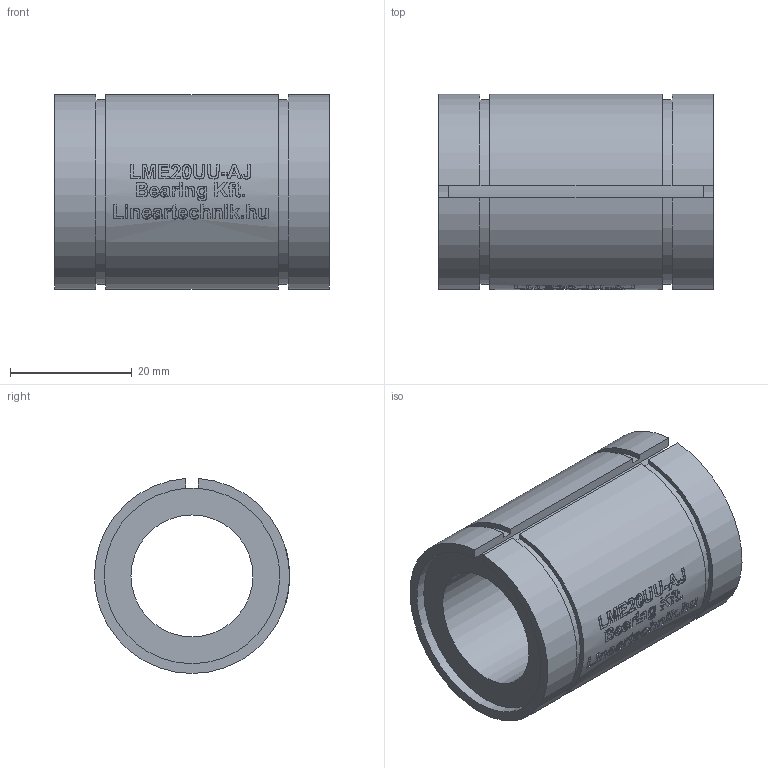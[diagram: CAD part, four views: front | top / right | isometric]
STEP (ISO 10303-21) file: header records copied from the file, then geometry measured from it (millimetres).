
FILE_DESCRIPTION(/* description */ (''),/* implementation_level */ '2;1');
FILE_NAME(/* name */ 'LME20UU-AJ',/* time_stamp */ '2019-07-02T12:05:51+02:00',/* author */ ('VĂ©gh MĂˇtĂ©'),/* organization */ ('Bearing Kft'),/* preprocessor_version */ 'ST-DEVELOPER v16.7',/* originating_system */ 'DEX',/* authorisation */ $);
FILE_SCHEMA (('AUTOMOTIVE_DESIGN {1 0 10303 214 3 1 1}'));
Length unit declared in the file: millimetre
Products named in the file (1): LME20UU-AJ
Bounding box: 45 x 31.99 x 31.97 mm (x, y, z)
Volume: 20565.3 mm3; surface area: 8881.6 mm2
Topology: 1 solids, 1 shells, 341 faces, 865 edges, 576 vertices
Faces by surface type: plane 182, bspline 100, cylinder 59
Full cylindrical faces by diameter (mm): 20 x1
Entity records: 17498 total; most frequent: CARTESIAN_POINT 9768, ORIENTED_EDGE 1720, DIRECTION 1306, EDGE_CURVE 860, VERTEX_POINT 575, LINE 492, VECTOR 492, AXIS2_PLACEMENT_3D 407
